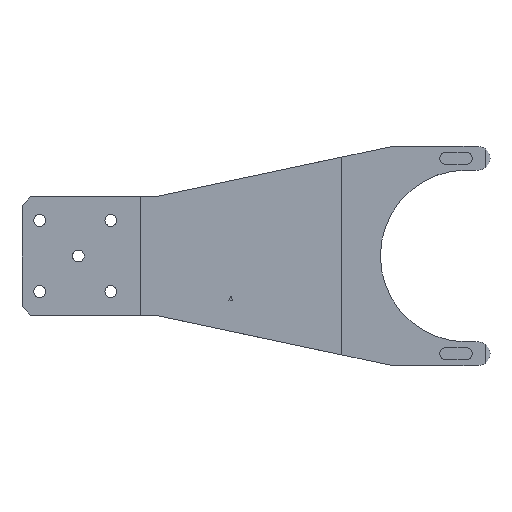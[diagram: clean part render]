
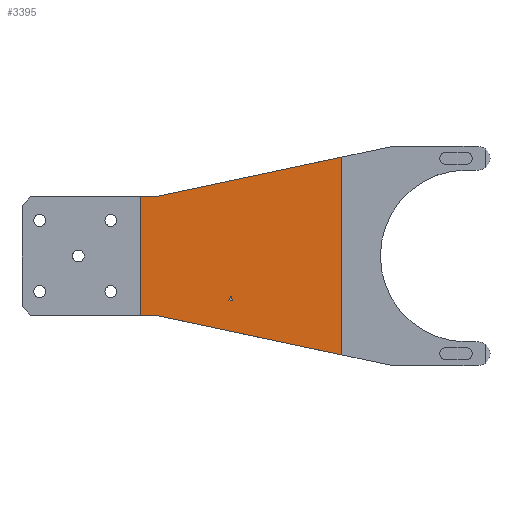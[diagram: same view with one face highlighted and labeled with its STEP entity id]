
A CAD part, top view. The second image highlights one B-rep face of the part: STEP entity #3395.
In plain terms, the highlighted planar face has unit normal (0, 0, 1).
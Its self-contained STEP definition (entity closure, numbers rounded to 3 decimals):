
#2100 = PLANE('',#2101);
#2101 = AXIS2_PLACEMENT_3D('',#2102,#2103,#2104);
#2102 = CARTESIAN_POINT('',(45.,0.,-1.9));
#2103 = DIRECTION('',(-0.208,0.978,0.));
#2104 = DIRECTION('',(-0.978,-0.208,0.));
#2128 = PLANE('',#2129);
#2129 = AXIS2_PLACEMENT_3D('',#2130,#2131,#2132);
#2130 = CARTESIAN_POINT('',(108.,13.388,-0.2));
#2131 = DIRECTION('',(1.,0.,0.));
#2132 = DIRECTION('',(0.,0.,-1.));
#2154 = PLANE('',#2155);
#2155 = AXIS2_PLACEMENT_3D('',#2156,#2157,#2158);
#2156 = CARTESIAN_POINT('',(45.,-40.,-1.9));
#2157 = DIRECTION('',(-0.208,-0.978,0.));
#2158 = DIRECTION('',(0.978,-0.208,0.));
#2280 = VERTEX_POINT('',#2281);
#2281 = CARTESIAN_POINT('',(40.,0.,-0.2));
#2290 = PLANE('',#2291);
#2291 = AXIS2_PLACEMENT_3D('',#2292,#2293,#2294);
#2292 = CARTESIAN_POINT('',(0.,0.,-1.9));
#2293 = DIRECTION('',(0.,1.,0.));
#2294 = DIRECTION('',(0.,-0.,1.));
#2302 = PLANE('',#2303);
#2303 = AXIS2_PLACEMENT_3D('',#2304,#2305,#2306);
#2304 = CARTESIAN_POINT('',(40.,0.,-0.2));
#2305 = DIRECTION('',(-1.,0.,0.));
#2306 = DIRECTION('',(0.,-1.,0.));
#2314 = EDGE_CURVE('',#2315,#2280,#2317,.T.);
#2315 = VERTEX_POINT('',#2316);
#2316 = CARTESIAN_POINT('',(45.,0.,-0.2));
#2317 = SURFACE_CURVE('',#2318,(#2322,#2329),.PCURVE_S1.);
#2318 = LINE('',#2319,#2320);
#2319 = CARTESIAN_POINT('',(40.,0.,-0.2));
#2320 = VECTOR('',#2321,1.);
#2321 = DIRECTION('',(-1.,-0.,-0.));
#2322 = PCURVE('',#2290,#2323);
#2323 = DEFINITIONAL_REPRESENTATION('',(#2324),#2328);
#2324 = LINE('',#2325,#2326);
#2325 = CARTESIAN_POINT('',(1.7,40.));
#2326 = VECTOR('',#2327,1.);
#2327 = DIRECTION('',(0.,-1.));
#2328 = ( GEOMETRIC_REPRESENTATION_CONTEXT(2) 
PARAMETRIC_REPRESENTATION_CONTEXT() REPRESENTATION_CONTEXT('2D SPACE',''
  ) );
#2329 = PCURVE('',#2330,#2335);
#2330 = PLANE('',#2331);
#2331 = AXIS2_PLACEMENT_3D('',#2332,#2333,#2334);
#2332 = CARTESIAN_POINT('',(0.,0.,-0.2));
#2333 = DIRECTION('',(0.,0.,-1.));
#2334 = DIRECTION('',(-1.,0.,-0.));
#2335 = DEFINITIONAL_REPRESENTATION('',(#2336),#2340);
#2336 = LINE('',#2337,#2338);
#2337 = CARTESIAN_POINT('',(-40.,0.));
#2338 = VECTOR('',#2339,1.);
#2339 = DIRECTION('',(1.,0.));
#2340 = ( GEOMETRIC_REPRESENTATION_CONTEXT(2) 
PARAMETRIC_REPRESENTATION_CONTEXT() REPRESENTATION_CONTEXT('2D SPACE',''
  ) );
#2436 = VERTEX_POINT('',#2437);
#2437 = CARTESIAN_POINT('',(108.,13.388,-0.2));
#2504 = EDGE_CURVE('',#2436,#2315,#2505,.T.);
#2505 = SURFACE_CURVE('',#2506,(#2510,#2517),.PCURVE_S1.);
#2506 = LINE('',#2507,#2508);
#2507 = CARTESIAN_POINT('',(45.,0.,-0.2));
#2508 = VECTOR('',#2509,1.);
#2509 = DIRECTION('',(-0.978,-0.208,-0.));
#2510 = PCURVE('',#2100,#2511);
#2511 = DEFINITIONAL_REPRESENTATION('',(#2512),#2516);
#2512 = LINE('',#2513,#2514);
#2513 = CARTESIAN_POINT('',(0.,1.7));
#2514 = VECTOR('',#2515,1.);
#2515 = DIRECTION('',(1.,-0.));
#2516 = ( GEOMETRIC_REPRESENTATION_CONTEXT(2) 
PARAMETRIC_REPRESENTATION_CONTEXT() REPRESENTATION_CONTEXT('2D SPACE',''
  ) );
#2517 = PCURVE('',#2330,#2518);
#2518 = DEFINITIONAL_REPRESENTATION('',(#2519),#2523);
#2519 = LINE('',#2520,#2521);
#2520 = CARTESIAN_POINT('',(-45.,0.));
#2521 = VECTOR('',#2522,1.);
#2522 = DIRECTION('',(0.978,-0.208));
#2523 = ( GEOMETRIC_REPRESENTATION_CONTEXT(2) 
PARAMETRIC_REPRESENTATION_CONTEXT() REPRESENTATION_CONTEXT('2D SPACE',''
  ) );
#2735 = VERTEX_POINT('',#2736);
#2736 = CARTESIAN_POINT('',(108.,-53.388,-0.2));
#2757 = EDGE_CURVE('',#2758,#2735,#2760,.T.);
#2758 = VERTEX_POINT('',#2759);
#2759 = CARTESIAN_POINT('',(45.,-40.,-0.2));
#2760 = SURFACE_CURVE('',#2761,(#2765,#2772),.PCURVE_S1.);
#2761 = LINE('',#2762,#2763);
#2762 = CARTESIAN_POINT('',(45.,-40.,-0.2));
#2763 = VECTOR('',#2764,1.);
#2764 = DIRECTION('',(0.978,-0.208,0.));
#2765 = PCURVE('',#2154,#2766);
#2766 = DEFINITIONAL_REPRESENTATION('',(#2767),#2771);
#2767 = LINE('',#2768,#2769);
#2768 = CARTESIAN_POINT('',(0.,1.7));
#2769 = VECTOR('',#2770,1.);
#2770 = DIRECTION('',(1.,0.));
#2771 = ( GEOMETRIC_REPRESENTATION_CONTEXT(2) 
PARAMETRIC_REPRESENTATION_CONTEXT() REPRESENTATION_CONTEXT('2D SPACE',''
  ) );
#2772 = PCURVE('',#2330,#2773);
#2773 = DEFINITIONAL_REPRESENTATION('',(#2774),#2778);
#2774 = LINE('',#2775,#2776);
#2775 = CARTESIAN_POINT('',(-45.,-40.));
#2776 = VECTOR('',#2777,1.);
#2777 = DIRECTION('',(-0.978,-0.208));
#2778 = ( GEOMETRIC_REPRESENTATION_CONTEXT(2) 
PARAMETRIC_REPRESENTATION_CONTEXT() REPRESENTATION_CONTEXT('2D SPACE',''
  ) );
#2796 = PLANE('',#2797);
#2797 = AXIS2_PLACEMENT_3D('',#2798,#2799,#2800);
#2798 = CARTESIAN_POINT('',(0.,-40.,-1.9));
#2799 = DIRECTION('',(0.,-1.,0.));
#2800 = DIRECTION('',(0.,-0.,-1.));
#2835 = VERTEX_POINT('',#2836);
#2836 = CARTESIAN_POINT('',(40.,-40.,-0.2));
#2927 = EDGE_CURVE('',#2835,#2758,#2928,.T.);
#2928 = SURFACE_CURVE('',#2929,(#2933,#2940),.PCURVE_S1.);
#2929 = LINE('',#2930,#2931);
#2930 = CARTESIAN_POINT('',(40.,-40.,-0.2));
#2931 = VECTOR('',#2932,1.);
#2932 = DIRECTION('',(1.,0.,0.));
#2933 = PCURVE('',#2796,#2934);
#2934 = DEFINITIONAL_REPRESENTATION('',(#2935),#2939);
#2935 = LINE('',#2936,#2937);
#2936 = CARTESIAN_POINT('',(-1.7,40.));
#2937 = VECTOR('',#2938,1.);
#2938 = DIRECTION('',(0.,1.));
#2939 = ( GEOMETRIC_REPRESENTATION_CONTEXT(2) 
PARAMETRIC_REPRESENTATION_CONTEXT() REPRESENTATION_CONTEXT('2D SPACE',''
  ) );
#2940 = PCURVE('',#2330,#2941);
#2941 = DEFINITIONAL_REPRESENTATION('',(#2942),#2946);
#2942 = LINE('',#2943,#2944);
#2943 = CARTESIAN_POINT('',(-40.,-40.));
#2944 = VECTOR('',#2945,1.);
#2945 = DIRECTION('',(-1.,0.));
#2946 = ( GEOMETRIC_REPRESENTATION_CONTEXT(2) 
PARAMETRIC_REPRESENTATION_CONTEXT() REPRESENTATION_CONTEXT('2D SPACE',''
  ) );
#3347 = EDGE_CURVE('',#2735,#2436,#3348,.T.);
#3348 = SURFACE_CURVE('',#3349,(#3353,#3360),.PCURVE_S1.);
#3349 = LINE('',#3350,#3351);
#3350 = CARTESIAN_POINT('',(108.,13.388,-0.2));
#3351 = VECTOR('',#3352,1.);
#3352 = DIRECTION('',(-0.,1.,-0.));
#3353 = PCURVE('',#2128,#3354);
#3354 = DEFINITIONAL_REPRESENTATION('',(#3355),#3359);
#3355 = LINE('',#3356,#3357);
#3356 = CARTESIAN_POINT('',(0.,0.));
#3357 = VECTOR('',#3358,1.);
#3358 = DIRECTION('',(0.,1.));
#3359 = ( GEOMETRIC_REPRESENTATION_CONTEXT(2) 
PARAMETRIC_REPRESENTATION_CONTEXT() REPRESENTATION_CONTEXT('2D SPACE',''
  ) );
#3360 = PCURVE('',#2330,#3361);
#3361 = DEFINITIONAL_REPRESENTATION('',(#3362),#3366);
#3362 = LINE('',#3363,#3364);
#3363 = CARTESIAN_POINT('',(-108.,13.388));
#3364 = VECTOR('',#3365,1.);
#3365 = DIRECTION('',(0.,1.));
#3366 = ( GEOMETRIC_REPRESENTATION_CONTEXT(2) 
PARAMETRIC_REPRESENTATION_CONTEXT() REPRESENTATION_CONTEXT('2D SPACE',''
  ) );
#3374 = EDGE_CURVE('',#2280,#2835,#3375,.T.);
#3375 = SURFACE_CURVE('',#3376,(#3380,#3387),.PCURVE_S1.);
#3376 = LINE('',#3377,#3378);
#3377 = CARTESIAN_POINT('',(40.,0.,-0.2));
#3378 = VECTOR('',#3379,1.);
#3379 = DIRECTION('',(0.,-1.,0.));
#3380 = PCURVE('',#2302,#3381);
#3381 = DEFINITIONAL_REPRESENTATION('',(#3382),#3386);
#3382 = LINE('',#3383,#3384);
#3383 = CARTESIAN_POINT('',(0.,0.));
#3384 = VECTOR('',#3385,1.);
#3385 = DIRECTION('',(1.,0.));
#3386 = ( GEOMETRIC_REPRESENTATION_CONTEXT(2) 
PARAMETRIC_REPRESENTATION_CONTEXT() REPRESENTATION_CONTEXT('2D SPACE',''
  ) );
#3387 = PCURVE('',#2330,#3388);
#3388 = DEFINITIONAL_REPRESENTATION('',(#3389),#3393);
#3389 = LINE('',#3390,#3391);
#3390 = CARTESIAN_POINT('',(-40.,0.));
#3391 = VECTOR('',#3392,1.);
#3392 = DIRECTION('',(0.,-1.));
#3393 = ( GEOMETRIC_REPRESENTATION_CONTEXT(2) 
PARAMETRIC_REPRESENTATION_CONTEXT() REPRESENTATION_CONTEXT('2D SPACE',''
  ) );
#3395 = ADVANCED_FACE('',(#3396),#2330,.F.);
#3396 = FACE_BOUND('',#3397,.T.);
#3397 = EDGE_LOOP('',(#3398,#3399,#3400,#3401,#3402,#3403));
#3398 = ORIENTED_EDGE('',*,*,#2314,.T.);
#3399 = ORIENTED_EDGE('',*,*,#3374,.T.);
#3400 = ORIENTED_EDGE('',*,*,#2927,.T.);
#3401 = ORIENTED_EDGE('',*,*,#2757,.T.);
#3402 = ORIENTED_EDGE('',*,*,#3347,.T.);
#3403 = ORIENTED_EDGE('',*,*,#2504,.T.);
